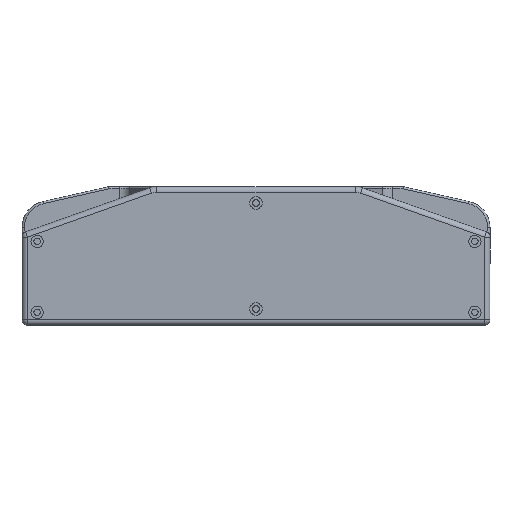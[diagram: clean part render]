
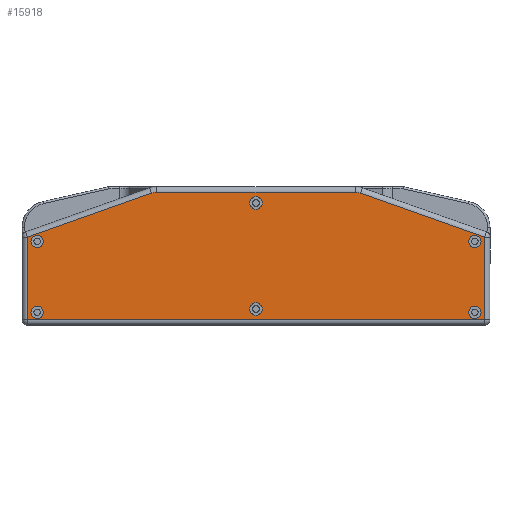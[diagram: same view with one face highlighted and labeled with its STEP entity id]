
A CAD part, front view. The second image highlights one B-rep face of the part: STEP entity #15918.
In plain terms, the highlighted planar face has unit normal (0, -1, 0).
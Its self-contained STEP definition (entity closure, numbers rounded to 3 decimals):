
#77 = DIRECTION ( 'NONE',  ( 0., 0., -1. ) ) ;
#109 = FACE_BOUND ( 'NONE', #4966, .T. ) ;
#245 = CARTESIAN_POINT ( 'NONE',  ( -211.25, 0., 5. ) ) ;
#285 = AXIS2_PLACEMENT_3D ( 'NONE', #765, #20649, #6298 ) ;
#443 = CARTESIAN_POINT ( 'NONE',  ( -211.25, 0., 81.468 ) ) ;
#452 = EDGE_CURVE ( 'NONE', #19157, #19157, #12163, .T. ) ;
#683 = VERTEX_POINT ( 'NONE', #443 ) ;
#725 = EDGE_CURVE ( 'NONE', #23489, #8821, #8438, .T. ) ;
#765 = CARTESIAN_POINT ( 'NONE',  ( -202.25, 0., 77.5 ) ) ;
#1260 = EDGE_LOOP ( 'NONE', ( #12850 ) ) ;
#1369 = ORIENTED_EDGE ( 'NONE', *, *, #10910, .T. ) ;
#1540 = CARTESIAN_POINT ( 'NONE',  ( 211.25, 0., 5. ) ) ;
#1682 = EDGE_CURVE ( 'NONE', #18550, #3469, #18714, .T. ) ;
#2238 = ORIENTED_EDGE ( 'NONE', *, *, #18612, .F. ) ;
#2260 = CARTESIAN_POINT ( 'NONE',  ( -202.25, 0., 6.25 ) ) ;
#2276 = DIRECTION ( 'NONE',  ( 0., -1., 0. ) ) ;
#2410 = DIRECTION ( 'NONE',  ( -1., 0., 0. ) ) ;
#2507 = EDGE_CURVE ( 'NONE', #13061, #18550, #19095, .T. ) ;
#2517 = DIRECTION ( 'NONE',  ( 0., -1., 0. ) ) ;
#2947 = CARTESIAN_POINT ( 'NONE',  ( 202.25, 0., 77.5 ) ) ;
#2970 = DIRECTION ( 'NONE',  ( -0.942, 0., -0.334 ) ) ;
#3243 = AXIS2_PLACEMENT_3D ( 'NONE', #13616, #20874, #19917 ) ;
#3469 = VERTEX_POINT ( 'NONE', #18732 ) ;
#3607 = ORIENTED_EDGE ( 'NONE', *, *, #1682, .T. ) ;
#3611 = CIRCLE ( 'NONE', #3243, 5.75 ) ;
#3677 = CIRCLE ( 'NONE', #15541, 5.75 ) ;
#3869 = LINE ( 'NONE', #9433, #13879 ) ;
#4062 = CARTESIAN_POINT ( 'NONE',  ( 0., 0., 0. ) ) ;
#4966 = EDGE_LOOP ( 'NONE', ( #10547 ) ) ;
#5411 = CARTESIAN_POINT ( 'NONE',  ( 211.25, 0., 81.468 ) ) ;
#5491 = ORIENTED_EDGE ( 'NONE', *, *, #16886, .T. ) ;
#5605 = CARTESIAN_POINT ( 'NONE',  ( -202.25, 0., 71.75 ) ) ;
#5628 = VECTOR ( 'NONE', #15268, 1000. ) ;
#5756 = FACE_BOUND ( 'NONE', #20157, .T. ) ;
#5862 = CARTESIAN_POINT ( 'NONE',  ( 0., 0., 9.25 ) ) ;
#6268 = AXIS2_PLACEMENT_3D ( 'NONE', #23106, #10953, #12394 ) ;
#6298 = DIRECTION ( 'NONE',  ( 0., 0., -1. ) ) ;
#6457 = VERTEX_POINT ( 'NONE', #13417 ) ;
#6461 = CIRCLE ( 'NONE', #8384, 5.75 ) ;
#6853 = CARTESIAN_POINT ( 'NONE',  ( -211.25, 0., 5. ) ) ;
#7190 = CARTESIAN_POINT ( 'NONE',  ( 202.25, 0., 6.25 ) ) ;
#7417 = VERTEX_POINT ( 'NONE', #7190 ) ;
#7467 = DIRECTION ( 'NONE',  ( 0., 0., 1. ) ) ;
#7606 = EDGE_CURVE ( 'NONE', #8821, #13381, #14552, .T. ) ;
#7616 = VECTOR ( 'NONE', #2410, 1000. ) ;
#7788 = FACE_BOUND ( 'NONE', #23392, .T. ) ;
#7794 = DIRECTION ( 'NONE',  ( 0., -1., 0. ) ) ;
#7944 = CARTESIAN_POINT ( 'NONE',  ( 211.25, 0., 5. ) ) ;
#8384 = AXIS2_PLACEMENT_3D ( 'NONE', #2947, #13874, #21132 ) ;
#8438 = LINE ( 'NONE', #7944, #5628 ) ;
#8821 = VERTEX_POINT ( 'NONE', #1540 ) ;
#8834 = ORIENTED_EDGE ( 'NONE', *, *, #2507, .T. ) ;
#9330 = CARTESIAN_POINT ( 'NONE',  ( 96.572, 0., 122.137 ) ) ;
#9433 = CARTESIAN_POINT ( 'NONE',  ( 96.572, 0., 122.137 ) ) ;
#9920 = VECTOR ( 'NONE', #7467, 1000. ) ;
#10004 = CARTESIAN_POINT ( 'NONE',  ( -91.559, 0., 123. ) ) ;
#10547 = ORIENTED_EDGE ( 'NONE', *, *, #13193, .F. ) ;
#10654 = CIRCLE ( 'NONE', #285, 5.75 ) ;
#10910 = EDGE_CURVE ( 'NONE', #13381, #13061, #3869, .T. ) ;
#10953 = DIRECTION ( 'NONE',  ( 0., -1., 0. ) ) ;
#11037 = DIRECTION ( 'NONE',  ( 0., 0., -1. ) ) ;
#11300 = FACE_BOUND ( 'NONE', #13636, .T. ) ;
#11352 = DIRECTION ( 'NONE',  ( -0.942, 0., 0.334 ) ) ;
#11688 = AXIS2_PLACEMENT_3D ( 'NONE', #14603, #15083, #77 ) ;
#11879 = AXIS2_PLACEMENT_3D ( 'NONE', #18922, #2517, #17130 ) ;
#11955 = EDGE_CURVE ( 'NONE', #3469, #13982, #23038, .T. ) ;
#12000 = CARTESIAN_POINT ( 'NONE',  ( -211.25, 0., 81.468 ) ) ;
#12163 = CIRCLE ( 'NONE', #21282, 5.75 ) ;
#12235 = ORIENTED_EDGE ( 'NONE', *, *, #11955, .T. ) ;
#12381 = DIRECTION ( 'NONE',  ( 0., 0., -1. ) ) ;
#12394 = DIRECTION ( 'NONE',  ( 0., 0., -1. ) ) ;
#12411 = VECTOR ( 'NONE', #2970, 1000. ) ;
#12654 = ORIENTED_EDGE ( 'NONE', *, *, #725, .T. ) ;
#12850 = ORIENTED_EDGE ( 'NONE', *, *, #452, .F. ) ;
#12979 = DIRECTION ( 'NONE',  ( 0., 0., -1. ) ) ;
#13022 = CARTESIAN_POINT ( 'NONE',  ( 211.25, 0., 81.468 ) ) ;
#13061 = VERTEX_POINT ( 'NONE', #9330 ) ;
#13088 = PLANE ( 'NONE',  #21279 ) ;
#13193 = EDGE_CURVE ( 'NONE', #22120, #22120, #3611, .T. ) ;
#13351 = ORIENTED_EDGE ( 'NONE', *, *, #17859, .F. ) ;
#13381 = VERTEX_POINT ( 'NONE', #13022 ) ;
#13417 = CARTESIAN_POINT ( 'NONE',  ( 202.25, 0., 71.75 ) ) ;
#13616 = CARTESIAN_POINT ( 'NONE',  ( -202.25, 0., 12. ) ) ;
#13636 = EDGE_LOOP ( 'NONE', ( #2238 ) ) ;
#13874 = DIRECTION ( 'NONE',  ( 0., -1., 0. ) ) ;
#13879 = VECTOR ( 'NONE', #11352, 1000. ) ;
#13982 = VERTEX_POINT ( 'NONE', #16242 ) ;
#14414 = VECTOR ( 'NONE', #12381, 1000. ) ;
#14504 = VERTEX_POINT ( 'NONE', #5605 ) ;
#14552 = LINE ( 'NONE', #5411, #9920 ) ;
#14603 = CARTESIAN_POINT ( 'NONE',  ( 0., 0., 15. ) ) ;
#14981 = CARTESIAN_POINT ( 'NONE',  ( 91.559, 0., 123. ) ) ;
#15083 = DIRECTION ( 'NONE',  ( 0., -1., 0. ) ) ;
#15115 = DIRECTION ( 'NONE',  ( 0., 0., -1. ) ) ;
#15268 = DIRECTION ( 'NONE',  ( 1., 0., 0. ) ) ;
#15541 = AXIS2_PLACEMENT_3D ( 'NONE', #16996, #7794, #12979 ) ;
#15918 = ADVANCED_FACE ( 'NONE', ( #7788, #21998, #22136, #11300, #109, #5756, #20470 ), #13088, .T. ) ;
#16242 = CARTESIAN_POINT ( 'NONE',  ( -96.572, 0., 122.137 ) ) ;
#16349 = EDGE_CURVE ( 'NONE', #18668, #18668, #17364, .T. ) ;
#16886 = EDGE_CURVE ( 'NONE', #683, #23489, #19885, .T. ) ;
#16996 = CARTESIAN_POINT ( 'NONE',  ( 202.25, 0., 12. ) ) ;
#17014 = EDGE_CURVE ( 'NONE', #7417, #7417, #3677, .T. ) ;
#17130 = DIRECTION ( 'NONE',  ( 0., 0., -1. ) ) ;
#17364 = CIRCLE ( 'NONE', #11688, 5.75 ) ;
#17859 = EDGE_CURVE ( 'NONE', #14504, #14504, #10654, .T. ) ;
#18303 = CARTESIAN_POINT ( 'NONE',  ( 0., 0., 113. ) ) ;
#18550 = VERTEX_POINT ( 'NONE', #14981 ) ;
#18612 = EDGE_CURVE ( 'NONE', #6457, #6457, #6461, .T. ) ;
#18668 = VERTEX_POINT ( 'NONE', #5862 ) ;
#18714 = LINE ( 'NONE', #10004, #7616 ) ;
#18732 = CARTESIAN_POINT ( 'NONE',  ( -91.559, 0., 123. ) ) ;
#18748 = EDGE_LOOP ( 'NONE', ( #3607, #12235, #20701, #5491, #12654, #20168, #1369, #8834 ) ) ;
#18922 = CARTESIAN_POINT ( 'NONE',  ( 91.559, 0., 108. ) ) ;
#19095 = CIRCLE ( 'NONE', #11879, 15. ) ;
#19157 = VERTEX_POINT ( 'NONE', #20599 ) ;
#19234 = EDGE_LOOP ( 'NONE', ( #23670 ) ) ;
#19655 = EDGE_CURVE ( 'NONE', #13982, #683, #21039, .T. ) ;
#19885 = LINE ( 'NONE', #6853, #14414 ) ;
#19917 = DIRECTION ( 'NONE',  ( 0., 0., -1. ) ) ;
#20082 = DIRECTION ( 'NONE',  ( 0., -1., 0. ) ) ;
#20157 = EDGE_LOOP ( 'NONE', ( #21844 ) ) ;
#20168 = ORIENTED_EDGE ( 'NONE', *, *, #7606, .T. ) ;
#20470 = FACE_OUTER_BOUND ( 'NONE', #18748, .T. ) ;
#20599 = CARTESIAN_POINT ( 'NONE',  ( 0., 0., 107.25 ) ) ;
#20649 = DIRECTION ( 'NONE',  ( 0., -1., 0. ) ) ;
#20701 = ORIENTED_EDGE ( 'NONE', *, *, #19655, .T. ) ;
#20874 = DIRECTION ( 'NONE',  ( 0., -1., 0. ) ) ;
#21039 = LINE ( 'NONE', #12000, #12411 ) ;
#21132 = DIRECTION ( 'NONE',  ( 0., 0., -1. ) ) ;
#21279 = AXIS2_PLACEMENT_3D ( 'NONE', #4062, #2276, #15115 ) ;
#21282 = AXIS2_PLACEMENT_3D ( 'NONE', #18303, #20082, #11037 ) ;
#21844 = ORIENTED_EDGE ( 'NONE', *, *, #17014, .F. ) ;
#21998 = FACE_BOUND ( 'NONE', #19234, .T. ) ;
#22120 = VERTEX_POINT ( 'NONE', #2260 ) ;
#22136 = FACE_BOUND ( 'NONE', #1260, .T. ) ;
#23038 = CIRCLE ( 'NONE', #6268, 15. ) ;
#23106 = CARTESIAN_POINT ( 'NONE',  ( -91.559, 0., 108. ) ) ;
#23392 = EDGE_LOOP ( 'NONE', ( #13351 ) ) ;
#23489 = VERTEX_POINT ( 'NONE', #245 ) ;
#23670 = ORIENTED_EDGE ( 'NONE', *, *, #16349, .F. ) ;
